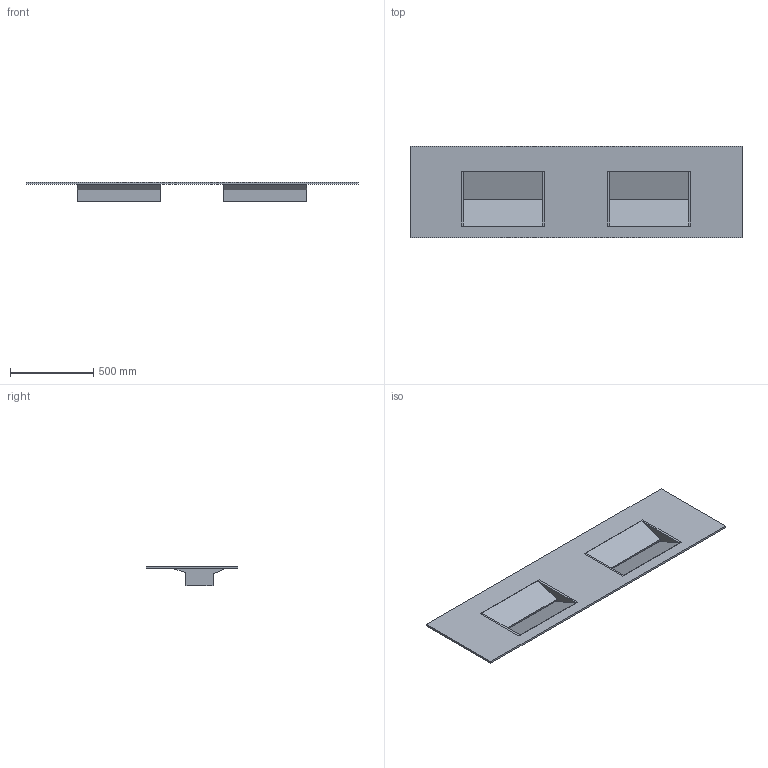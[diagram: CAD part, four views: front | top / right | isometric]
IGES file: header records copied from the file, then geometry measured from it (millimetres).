
Start section:  Autodesk Design for Windows version 2010 IGES version 5.3  Autodesk Design for Windows version 2010 IGES version 5.3
Global section: file name: D:\Desktop\GIOVANNI\SCHEDE PRODOTTO\PIANI LAVABO\HORIZONTAL\3D\MOMA DESIGN_PIANI LAVABO_HORIZONTAL MODULE DOUBLE.igs; native system: Rhinoceros ( Jan 17 2018 ); preprocessor: Trout Lake IGES 012 Jan 17 2018; date: 230606.142340; units: millimetre
Bounding box: 2000 x 550 x 120.17 mm (x, y, z)
Surface area: 3063110.6 mm2 (no closed solid volume)
Topology: 0 solids, 0 shells, 94 faces, 512 edges, 512 vertices
Faces by surface type: bspline 94
